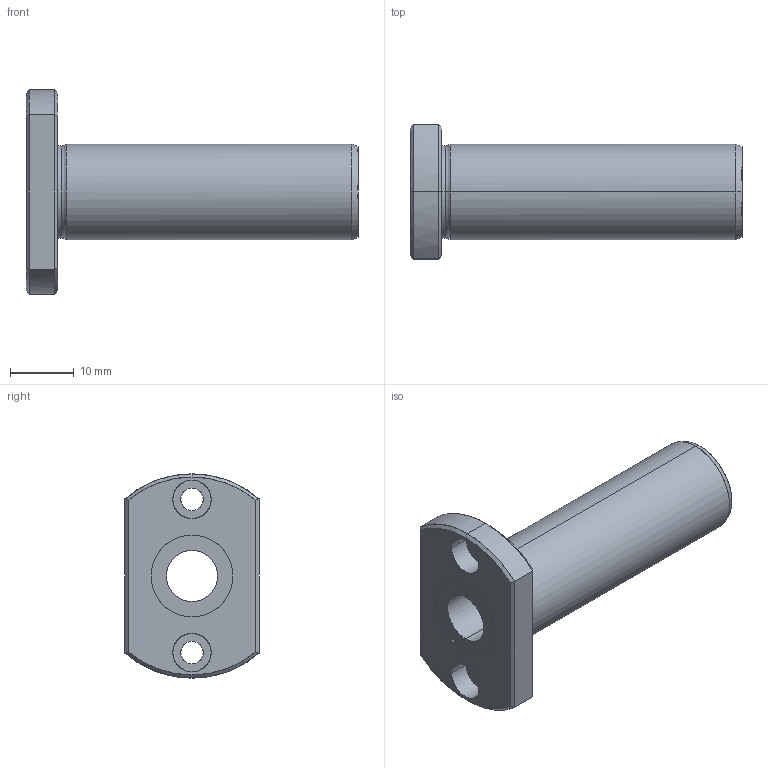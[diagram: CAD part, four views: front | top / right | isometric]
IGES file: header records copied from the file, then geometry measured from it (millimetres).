
Global section: file name: No Iges File Name specified; native system: AutoDesk Inventor R10; preprocessor: AutoDesk Inventor Iges Exporter R10; author: No Author specified; organization: No Organization specified; date: 20101216.154414; units: millimetre
Bounding box: 52 x 21 x 32 mm (x, y, z)
Surface area: 5195.2 mm2 (no closed solid volume)
Topology: 0 solids, 0 shells, 47 faces, 280 edges, 280 vertices
Faces by surface type: bspline 47
